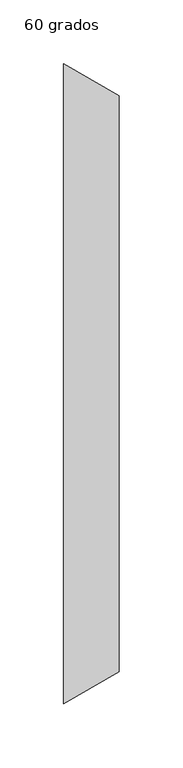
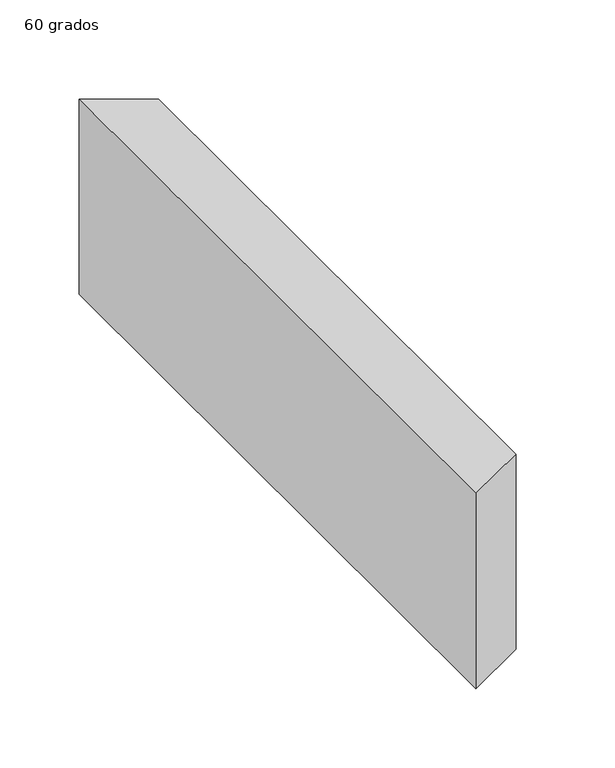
"""IFC4 building model written with IfcOpenShell, lengths in millimetres: duct fitting geometry, M_Transición rectangular - Ángulo : 60 grados."""

from ifc_helpers import new_model, si_unit, frame, origin, place, context, project, spatial, polyline, outline, extrude, source, transform, mapped, element, save


def duct_fitting_60_grados_35480d3f(model_context):
    return source(origin(), model_context, "Body", "SweptSolid", [
        extrude(outline(polyline([(0.0, -250.0), (0.0, 250.0), (43.3012702, 225.0), (43.3012702, -225.0), (0.0, -250.0)])), frame((0.0, 0.0, -75.0), z_axis=(0.0, 0.0, 1.0), x_axis=(1.0, 0.0, 0.0)), (0.0, 0.0, 1.0), 150.0),
    ])


if __name__ == "__main__":
    model = new_model("IFC4")
    model_context = context("Model", 3, world=origin())
    ifc_project = project(units=[si_unit("LENGTHUNIT", "METRE", prefix="MILLI")], contexts=[model_context])
    site = spatial("IfcSite", under=ifc_project)
    building = spatial("IfcBuilding", under=site)
    placement = place(None, origin())
    duct_fitting_60_grados_shape = duct_fitting_60_grados_35480d3f(model_context)
    element("IfcDuctFitting", 1, ObjectType="M_Transición rectangular - Ángulo : 60 grados", at=placement, inside=building, context=model_context, shape_type="MappedRepresentation", body=[
        mapped(duct_fitting_60_grados_shape, transform((0.0, 0.0, 0.0), x_axis=(1.0, 0.0, 0.0), y_axis=(0.0, 1.0, 0.0), z_axis=(0.0, 0.0, 1.0))),
    ])
    save(model, "model.ifc")
